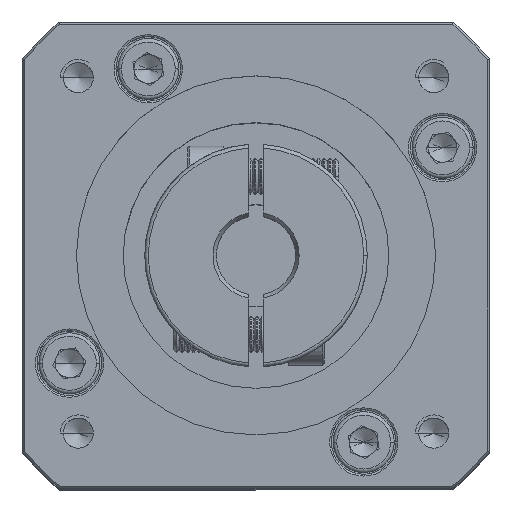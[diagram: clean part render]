
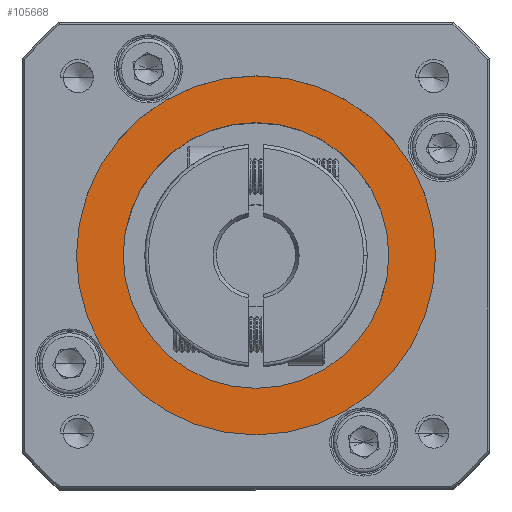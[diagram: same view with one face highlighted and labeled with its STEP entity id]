
A CAD part, top view. The second image highlights one B-rep face of the part: STEP entity #105668.
In plain terms, the highlighted planar face has unit normal (0, 0, 1).
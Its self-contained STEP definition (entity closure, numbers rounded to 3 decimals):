
#19673 = CARTESIAN_POINT ( 'NONE',  ( -33.669, 13.968, -3.341 ) ) ;
#23240 = EDGE_LOOP ( 'NONE', ( #101474, #60040 ) ) ;
#23978 = DIRECTION ( 'NONE',  ( 0., 0., 1. ) ) ;
#26714 = CARTESIAN_POINT ( 'NONE',  ( -33.669, 13.968, -3.341 ) ) ;
#28106 = EDGE_LOOP ( 'NONE', ( #39365, #51805 ) ) ;
#28197 = DIRECTION ( 'NONE',  ( 1., 0., 0. ) ) ;
#29182 = EDGE_CURVE ( 'NONE', #111382, #114113, #61797, .T. ) ;
#29505 = DIRECTION ( 'NONE',  ( 1., 0., 0. ) ) ;
#39365 = ORIENTED_EDGE ( 'NONE', *, *, #57461, .T. ) ;
#50371 = CARTESIAN_POINT ( 'NONE',  ( -15.169, 13.968, -3.341 ) ) ;
#51805 = ORIENTED_EDGE ( 'NONE', *, *, #81553, .T. ) ;
#57461 = EDGE_CURVE ( 'NONE', #110238, #64533, #110379, .T. ) ;
#58705 = AXIS2_PLACEMENT_3D ( 'NONE', #26714, #74330, #94844 ) ;
#60040 = ORIENTED_EDGE ( 'NONE', *, *, #29182, .T. ) ;
#61461 = CARTESIAN_POINT ( 'NONE',  ( -33.669, 13.968, -3.341 ) ) ;
#61797 = CIRCLE ( 'NONE', #63659, 18.5 ) ;
#63659 = AXIS2_PLACEMENT_3D ( 'NONE', #19673, #107054, #28197 ) ;
#64533 = VERTEX_POINT ( 'NONE', #66603 ) ;
#65304 = CIRCLE ( 'NONE', #74662, 18.5 ) ;
#66603 = CARTESIAN_POINT ( 'NONE',  ( -58.669, 13.968, -3.341 ) ) ;
#71236 = DIRECTION ( 'NONE',  ( 1., 0., 0. ) ) ;
#74330 = DIRECTION ( 'NONE',  ( 0., 0., 1. ) ) ;
#74662 = AXIS2_PLACEMENT_3D ( 'NONE', #61461, #120792, #71236 ) ;
#75960 = FACE_OUTER_BOUND ( 'NONE', #28106, .T. ) ;
#81553 = EDGE_CURVE ( 'NONE', #64533, #110238, #88539, .T. ) ;
#88539 = CIRCLE ( 'NONE', #58705, 25. ) ;
#88708 = PLANE ( 'NONE',  #120900 ) ;
#91733 = DIRECTION ( 'NONE',  ( 1., 0., 0. ) ) ;
#94844 = DIRECTION ( 'NONE',  ( 1., 0., 0. ) ) ;
#97662 = CARTESIAN_POINT ( 'NONE',  ( -33.669, 13.968, -3.341 ) ) ;
#101474 = ORIENTED_EDGE ( 'NONE', *, *, #115851, .T. ) ;
#101580 = CARTESIAN_POINT ( 'NONE',  ( -33.669, 13.968, -3.341 ) ) ;
#105668 = ADVANCED_FACE ( 'NONE', ( #75960, #106426 ), #88708, .T. ) ;
#106426 = FACE_BOUND ( 'NONE', #23240, .T. ) ;
#107054 = DIRECTION ( 'NONE',  ( 0., 0., -1. ) ) ;
#107971 = DIRECTION ( 'NONE',  ( 0., 0., 1. ) ) ;
#110238 = VERTEX_POINT ( 'NONE', #122628 ) ;
#110379 = CIRCLE ( 'NONE', #113511, 25. ) ;
#111382 = VERTEX_POINT ( 'NONE', #122102 ) ;
#113511 = AXIS2_PLACEMENT_3D ( 'NONE', #101580, #23978, #91733 ) ;
#114113 = VERTEX_POINT ( 'NONE', #50371 ) ;
#115851 = EDGE_CURVE ( 'NONE', #114113, #111382, #65304, .T. ) ;
#120792 = DIRECTION ( 'NONE',  ( 0., 0., -1. ) ) ;
#120900 = AXIS2_PLACEMENT_3D ( 'NONE', #97662, #107971, #29505 ) ;
#122102 = CARTESIAN_POINT ( 'NONE',  ( -52.169, 13.968, -3.341 ) ) ;
#122628 = CARTESIAN_POINT ( 'NONE',  ( -8.669, 13.968, -3.341 ) ) ;
